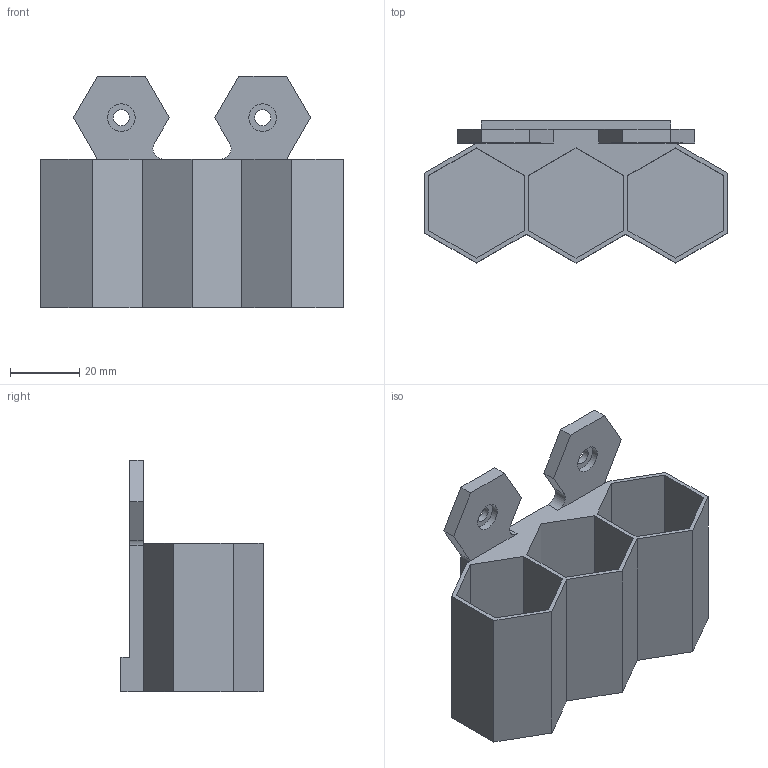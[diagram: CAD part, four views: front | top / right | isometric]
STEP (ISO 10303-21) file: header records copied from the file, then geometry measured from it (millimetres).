
FILE_DESCRIPTION(/* description */ (''),/* implementation_level */ '2;1');
FILE_NAME(/* name */ 'Storage box 3X30mm.step',/* time_stamp */ '2022-12-03T10:00:16Z',/* author */ (''),/* organization */ (''),/* preprocessor_version */ 'ST-DEVELOPER v19.2',/* originating_system */ 'Autodesk Translation Framework v11.17.0.187',/* authorisation */ '');
FILE_SCHEMA (('AUTOMOTIVE_DESIGN { 1 0 10303 214 3 1 1 }'));
Length unit declared in the file: millimetre
Products named in the file (1): Storage box 3X30mm
Bounding box: 87.6 x 41.14 x 67 mm (x, y, z)
Volume: 44408.9 mm3; surface area: 29976.9 mm2
Topology: 1 solids, 1 shells, 62 faces, 163 edges, 108 vertices
Faces by surface type: plane 54, cylinder 8
Full cylindrical faces by diameter (mm): 4.6 x2, 8 x2
Entity records: 1930 total; most frequent: CARTESIAN_POINT 334, ORIENTED_EDGE 326, DIRECTION 307, EDGE_CURVE 163, LINE 145, VECTOR 145, VERTEX_POINT 108, AXIS2_PLACEMENT_3D 81
